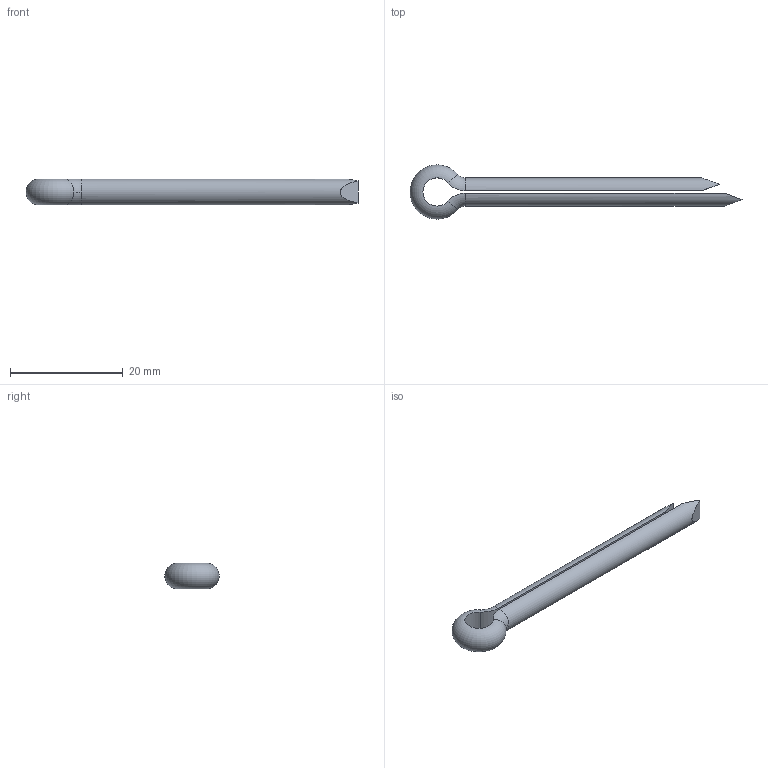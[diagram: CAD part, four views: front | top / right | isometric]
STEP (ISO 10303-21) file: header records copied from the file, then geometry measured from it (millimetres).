
FILE_DESCRIPTION (( 'STEP AP203' ), '1' );
FILE_NAME ('65674.0050.step', '2014-01-07T16:36:17', ( 'User' ), ( '' ), 'SwSTEP 2.0', 'SolidWorks 2009', '' );
FILE_SCHEMA (( 'CONFIG_CONTROL_DESIGN' ));
Length unit declared in the file: millimetre
Products named in the file (1): 65674.0050
Bounding box: 58.8 x 9.6 x 4.6 mm (x, y, z)
Volume: 941.4 mm3; surface area: 1364.2 mm2
Topology: 1 solids, 1 shells, 16 faces, 34 edges, 20 vertices
Faces by surface type: plane 6, torus 5, cylinder 5
Entity records: 507 total; most frequent: CARTESIAN_POINT 89, DIRECTION 78, ORIENTED_EDGE 68, EDGE_CURVE 34, AXIS2_PLACEMENT_3D 33, VERTEX_POINT 20, ADVANCED_FACE 16, EDGE_LOOP 16
